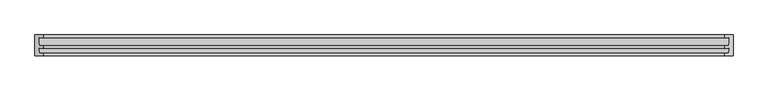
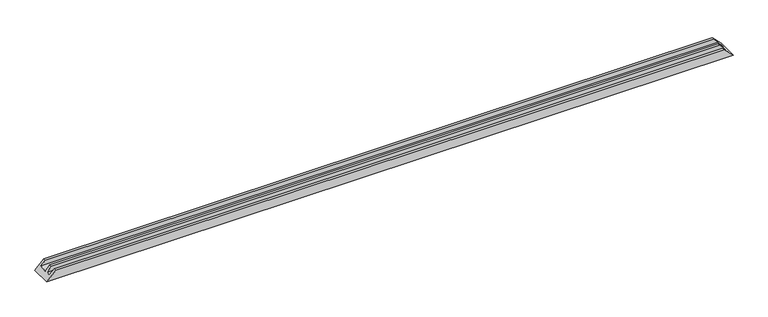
"""IFC4 building model written with IfcOpenShell, lengths in millimetres: proxy geometry, Weiku - Montante - Caixilho triplo 02.2.01.004 : Weiku - Montante - Caixilho triplo 02.2.01.004."""

from ifc_helpers import new_model, si_unit, origin, place, context, project, spatial, faceted_brep, source, transform, mapped, element, save


def generic_models_4fb00a98(model_context):
    return source(origin(), model_context, "Body", "Brep", [
        faceted_brep([(-1971.0, -15.0, 26.0), (1971.0, -15.0, 26.0), (1945.0, -15.0, 52.0), (-1945.0, -15.0, 52.0), (-1973.2229744, -62.0, 23.7770256), (1973.2229744, -62.0, 23.7770256), (-1945.0, -62.0, 52.0), (1945.0, -62.0, 52.0), (-1945.0, -77.0, 52.0), (1945.0, -77.0, 52.0), (-1971.0, -77.0, 26.0), (1971.0, -77.0, 26.0), (-1997.0, -119.0, 0.0), (-1997.0, 0.0, 0.0), (1997.0, 0.0, 0.0), (1997.0, -119.0, 0.0), (-1945.0, 0.0, 52.0), (1945.0, 0.0, 52.0), (-1945.0, -119.0, 52.0), (-1945.0, -104.0, 52.0), (-1972.2770279, -104.0, 24.7229721), (1972.2770279, -104.0, 24.7229721), (1945.0, -104.0, 52.0), (1945.0, -119.0, 52.0)], [[[0, 1, 2, 3]], [[4, 5, 1, 0]], [[6, 7, 5, 4]], [[8, 9, 7, 6]], [[10, 11, 9, 8]], [[12, 13, 14, 15]], [[13, 16, 17, 14]], [[3, 2, 17, 16]], [[3, 16, 13, 12, 18, 19, 20, 10, 8, 6, 4, 0]], [[1, 5, 7, 9, 11, 21, 22, 23, 15, 14, 17, 2]], [[20, 21, 11, 10]], [[19, 22, 21, 20]], [[18, 23, 22, 19]], [[15, 23, 18, 12]]]),
    ])


if __name__ == "__main__":
    model = new_model("IFC4")
    model_context = context("Model", 3, world=origin())
    ifc_project = project(units=[si_unit("LENGTHUNIT", "METRE", prefix="MILLI")], contexts=[model_context])
    site = spatial("IfcSite", under=ifc_project)
    building = spatial("IfcBuilding", under=site)
    placement = place(None, origin())
    generic_models_shape = generic_models_4fb00a98(model_context)
    element("IfcBuildingElementProxy", 1, Name="Weiku - Montante - Caixilho triplo 02.2.01.004 : Weiku - Montante - Caixilho triplo 02.2.01.004", ObjectType="Weiku - Montante - Caixilho triplo 02.2.01.004 : Weiku - Montante - Caixilho triplo 02.2.01.004", at=placement, inside=building, context=model_context, shape_type="MappedRepresentation", body=[
        mapped(generic_models_shape, transform((0.0, 0.0, 0.0), x_axis=(1.0, 0.0, 0.0), y_axis=(0.0, 1.0, 0.0), z_axis=(0.0, 0.0, 1.0))),
    ])
    save(model, "model.ifc")
